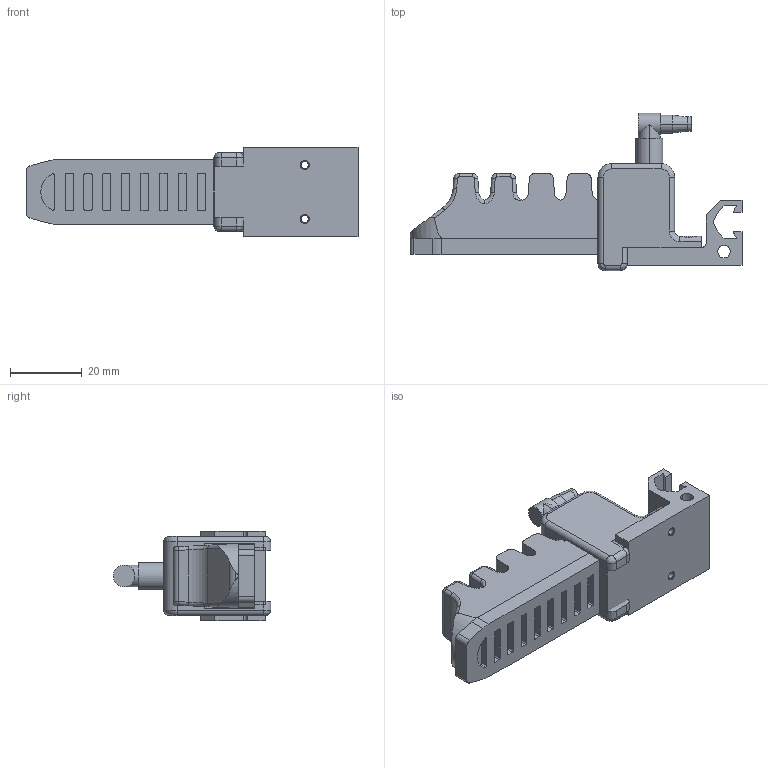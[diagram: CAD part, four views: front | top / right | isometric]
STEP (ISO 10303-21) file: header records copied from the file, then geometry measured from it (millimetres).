
FILE_DESCRIPTION (( 'STEP AP214' ), '1' );
FILE_NAME ('GFM-B5V5.STEP', '2019-12-04T03:40:39', ( '微软用户' ), ( '微软中国' ), 'SwSTEP 2.0', 'SolidWorks 2016', '' );
FILE_SCHEMA (( 'AUTOMOTIVE_DESIGN' ));
Length unit declared in the file: millimetre
Products named in the file (1): GFM-B5V5
Bounding box: 92.33 x 43.75 x 25 mm (x, y, z)
Volume: 32917.9 mm3; surface area: 16498.2 mm2
Topology: 4 solids, 4 shells, 314 faces, 794 edges, 499 vertices
Faces by surface type: cylinder 142, plane 124, bspline 28, cone 14, torus 6
Entity records: 14466 total; most frequent: CARTESIAN_POINT 3563, ORIENTED_EDGE 1588, DIRECTION 1513, EDGE_CURVE 794, AXIS2_PLACEMENT_3D 537, VERTEX_POINT 499, VECTOR 439, LINE 439
